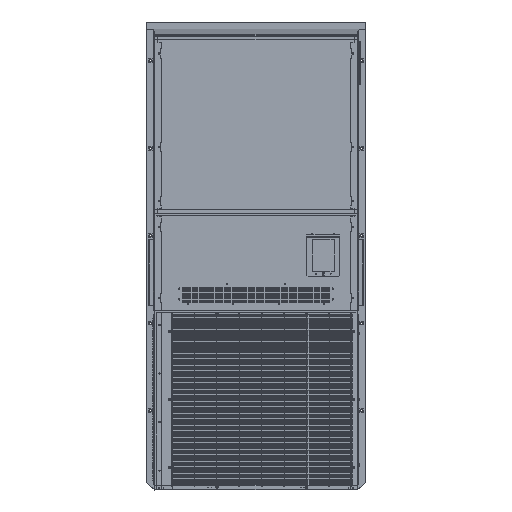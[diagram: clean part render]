
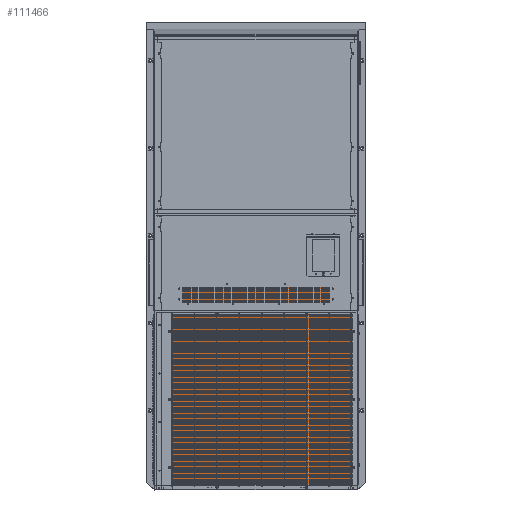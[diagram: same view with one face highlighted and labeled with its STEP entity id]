
A CAD part, top view. The second image highlights one B-rep face of the part: STEP entity #111466.
In plain terms, the highlighted planar face has unit normal (0, 0, 1).
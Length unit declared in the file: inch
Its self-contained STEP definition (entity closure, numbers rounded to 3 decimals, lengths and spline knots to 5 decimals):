
#900 = DIRECTION ( 'NONE',  ( 0., -1., 0. ) ) ;
#5046 = CARTESIAN_POINT ( 'NONE',  ( 0.015, 135.3664, -0.015 ) ) ;
#6144 = LINE ( 'NONE', #6813, #26589 ) ;
#6254 = CARTESIAN_POINT ( 'NONE',  ( 41.735, 88.302, -0.015 ) ) ;
#6813 = CARTESIAN_POINT ( 'NONE',  ( 41.735, 135.3664, -0.015 ) ) ;
#11472 = DIRECTION ( 'NONE',  ( -1., 0., 0. ) ) ;
#11787 = LINE ( 'NONE', #126140, #126235 ) ;
#12467 = DIRECTION ( 'NONE',  ( -1., 0., 0. ) ) ;
#19988 = ORIENTED_EDGE ( 'NONE', *, *, #46061, .T. ) ;
#22481 = LINE ( 'NONE', #116190, #71993 ) ;
#26589 = VECTOR ( 'NONE', #123222, 39.37008 ) ;
#36075 = DIRECTION ( 'NONE',  ( 0., 0., -1. ) ) ;
#37423 = FACE_OUTER_BOUND ( 'NONE', #69718, .T. ) ;
#38895 = CARTESIAN_POINT ( 'NONE',  ( 0.015, 88.302, -0.015 ) ) ;
#40495 = EDGE_CURVE ( 'NONE', #84384, #106178, #95269, .T. ) ;
#46061 = EDGE_CURVE ( 'NONE', #106178, #80685, #22481, .T. ) ;
#50139 = ORIENTED_EDGE ( 'NONE', *, *, #40495, .T. ) ;
#64103 = VECTOR ( 'NONE', #900, 39.37008 ) ;
#69718 = EDGE_LOOP ( 'NONE', ( #74043, #69933, #50139, #19988 ) ) ;
#69933 = ORIENTED_EDGE ( 'NONE', *, *, #116164, .T. ) ;
#71993 = VECTOR ( 'NONE', #105835, 39.37008 ) ;
#74043 = ORIENTED_EDGE ( 'NONE', *, *, #87171, .F. ) ;
#77902 = VERTEX_POINT ( 'NONE', #6254 ) ;
#80685 = VERTEX_POINT ( 'NONE', #95359 ) ;
#84384 = VERTEX_POINT ( 'NONE', #38895 ) ;
#87171 = EDGE_CURVE ( 'NONE', #77902, #80685, #6144, .T. ) ;
#87859 = CARTESIAN_POINT ( 'NONE',  ( 0.015, 0., -0.015 ) ) ;
#95269 = LINE ( 'NONE', #129006, #64103 ) ;
#95359 = CARTESIAN_POINT ( 'NONE',  ( 41.735, 0., -0.015 ) ) ;
#99416 = PLANE ( 'NONE',  #107516 ) ;
#105835 = DIRECTION ( 'NONE',  ( 1., 0., 0. ) ) ;
#106178 = VERTEX_POINT ( 'NONE', #87859 ) ;
#107516 = AXIS2_PLACEMENT_3D ( 'NONE', #5046, #36075, #11472 ) ;
#111466 = ADVANCED_FACE ( 'NONE', ( #37423 ), #99416, .F. ) ;
#116164 = EDGE_CURVE ( 'NONE', #77902, #84384, #11787, .T. ) ;
#116190 = CARTESIAN_POINT ( 'NONE',  ( 0.015, 0., -0.015 ) ) ;
#123222 = DIRECTION ( 'NONE',  ( 0., -1., 0. ) ) ;
#126140 = CARTESIAN_POINT ( 'NONE',  ( 0.015, 88.302, -0.015 ) ) ;
#126235 = VECTOR ( 'NONE', #12467, 39.37008 ) ;
#129006 = CARTESIAN_POINT ( 'NONE',  ( 0.015, 135.3664, -0.015 ) ) ;
